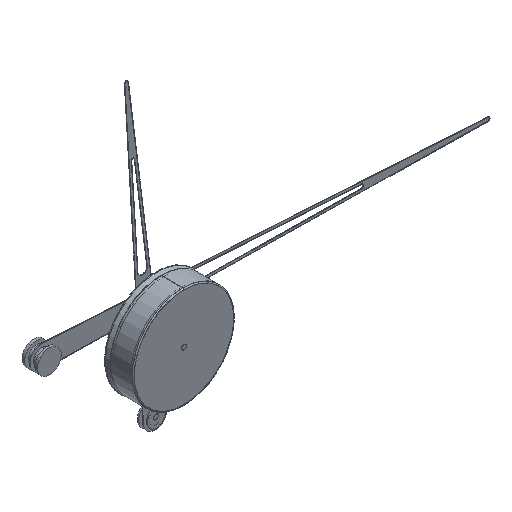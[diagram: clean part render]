
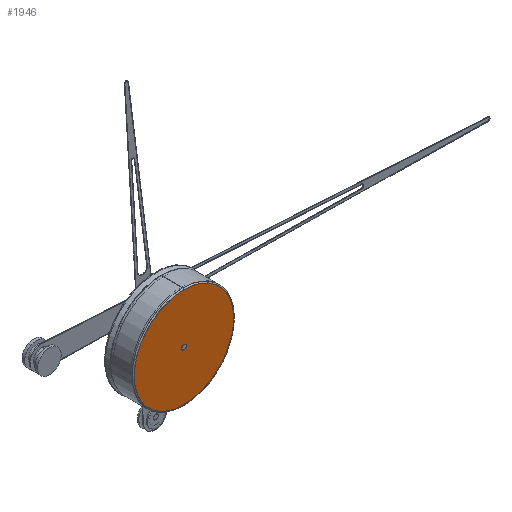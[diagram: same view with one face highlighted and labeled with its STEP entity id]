
A CAD part, isometric view. The second image highlights one B-rep face of the part: STEP entity #1946.
In plain terms, the highlighted planar face has unit normal (0, -1, 0).
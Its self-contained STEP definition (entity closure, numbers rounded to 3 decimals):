
#118 = EDGE_CURVE ( 'NONE', #4758, #2579, #4218, .T. ) ;
#193 = CARTESIAN_POINT ( 'NONE',  ( 43.3, -19.5, -2. ) ) ;
#269 = DIRECTION ( 'NONE',  ( 0., 0., 1. ) ) ;
#313 = DIRECTION ( 'NONE',  ( 0., 1., 0. ) ) ;
#774 = DIRECTION ( 'NONE',  ( 0., 1., 0. ) ) ;
#776 = DIRECTION ( 'NONE',  ( 0., -1., 0. ) ) ;
#847 = CIRCLE ( 'NONE', #5283, 42.3 ) ;
#1206 = CARTESIAN_POINT ( 'NONE',  ( 1., -19.5, 0. ) ) ;
#1563 = CIRCLE ( 'NONE', #1886, 2. ) ;
#1614 = ORIENTED_EDGE ( 'NONE', *, *, #5790, .T. ) ;
#1767 = DIRECTION ( 'NONE',  ( 0., 0., 1. ) ) ;
#1801 = DIRECTION ( 'NONE',  ( 0., 0., 1. ) ) ;
#1886 = AXIS2_PLACEMENT_3D ( 'NONE', #6541, #313, #269 ) ;
#1946 = ADVANCED_FACE ( 'NONE', ( #5898, #4512 ), #4398, .F. ) ;
#2174 = EDGE_CURVE ( 'NONE', #5700, #3237, #1563, .T. ) ;
#2470 = EDGE_LOOP ( 'NONE', ( #5605, #1614 ) ) ;
#2579 = VERTEX_POINT ( 'NONE', #3251 ) ;
#2634 = CARTESIAN_POINT ( 'NONE',  ( 43.3, -19.5, 2. ) ) ;
#2728 = DIRECTION ( 'NONE',  ( 0., 0., -1. ) ) ;
#3237 = VERTEX_POINT ( 'NONE', #193 ) ;
#3251 = CARTESIAN_POINT ( 'NONE',  ( 43.3, -19.5, -42.3 ) ) ;
#3254 = ORIENTED_EDGE ( 'NONE', *, *, #4918, .T. ) ;
#3363 = CARTESIAN_POINT ( 'NONE',  ( 43.3, -19.5, 0. ) ) ;
#4002 = ORIENTED_EDGE ( 'NONE', *, *, #118, .T. ) ;
#4095 = CIRCLE ( 'NONE', #5448, 2. ) ;
#4218 = CIRCLE ( 'NONE', #6489, 42.3 ) ;
#4398 = PLANE ( 'NONE',  #4989 ) ;
#4437 = DIRECTION ( 'NONE',  ( 0., 0., -1. ) ) ;
#4512 = FACE_OUTER_BOUND ( 'NONE', #4771, .T. ) ;
#4758 = VERTEX_POINT ( 'NONE', #5730 ) ;
#4771 = EDGE_LOOP ( 'NONE', ( #3254, #4002 ) ) ;
#4918 = EDGE_CURVE ( 'NONE', #2579, #4758, #847, .T. ) ;
#4989 = AXIS2_PLACEMENT_3D ( 'NONE', #1206, #6001, #1767 ) ;
#5283 = AXIS2_PLACEMENT_3D ( 'NONE', #6430, #5385, #2728 ) ;
#5385 = DIRECTION ( 'NONE',  ( 0., -1., 0. ) ) ;
#5448 = AXIS2_PLACEMENT_3D ( 'NONE', #3363, #774, #1801 ) ;
#5605 = ORIENTED_EDGE ( 'NONE', *, *, #2174, .T. ) ;
#5700 = VERTEX_POINT ( 'NONE', #2634 ) ;
#5730 = CARTESIAN_POINT ( 'NONE',  ( 43.3, -19.5, 42.3 ) ) ;
#5790 = EDGE_CURVE ( 'NONE', #3237, #5700, #4095, .T. ) ;
#5898 = FACE_BOUND ( 'NONE', #2470, .T. ) ;
#6001 = DIRECTION ( 'NONE',  ( 0., 1., 0. ) ) ;
#6430 = CARTESIAN_POINT ( 'NONE',  ( 43.3, -19.5, 0. ) ) ;
#6489 = AXIS2_PLACEMENT_3D ( 'NONE', #6511, #776, #4437 ) ;
#6511 = CARTESIAN_POINT ( 'NONE',  ( 43.3, -19.5, 0. ) ) ;
#6541 = CARTESIAN_POINT ( 'NONE',  ( 43.3, -19.5, 0. ) ) ;
